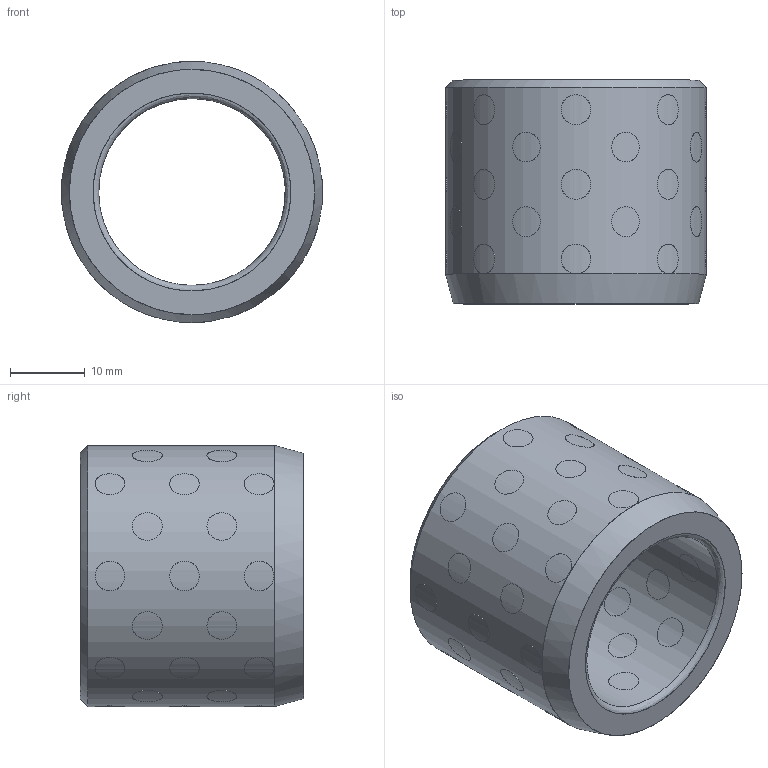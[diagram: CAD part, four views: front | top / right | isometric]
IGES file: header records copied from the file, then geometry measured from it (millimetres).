
Start section: Missler Software BP 521, 31674 Labege Cedex, France Tel   : +33 (0)5 61 00 03 00 Fax   : +33 (0)5 61 00 03 03 Email : sup.topsolid@topsolid.com
Global section: file name: D:\Cuma\18 03 2010\D30.04-2\D30.04_253035.igs; native system: TopSolid v605250 Missler Software; preprocessor: IGES preprocessor v100000; date: 030126.004318; units: millimetre
Bounding box: 35 x 30 x 35 mm (x, y, z)
Surface area: 10624.5 mm2 (no closed solid volume)
Topology: 0 solids, 0 shells, 152 faces, 3317 edges, 3216 vertices
Faces by surface type: bspline 152
